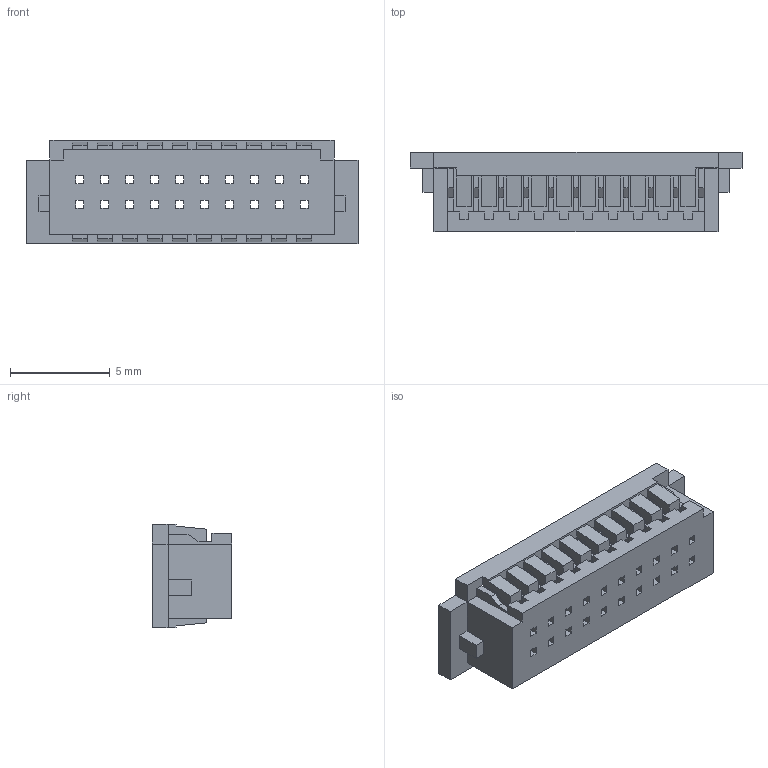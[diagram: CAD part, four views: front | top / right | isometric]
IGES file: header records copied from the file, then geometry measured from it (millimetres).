
Global section: file name: T:/3DWEB公開/NCW/DF13/DF13-DS-C/DF13-20DS-1.25C, ; native system: SolidDesigner 12.00  10-Sep-2003; preprocessor: OneSpace IGES_3D V1.0; author: Unknown; organization: Unknown; date: 20070323.114608; units: millimetre
Bounding box: 16.65 x 4 x 5.2 mm (x, y, z)
Volume: 141.3 mm3; surface area: 734.7 mm2
Topology: 1 solids, 1 shells, 502 faces, 1474 edges, 954 vertices
Faces by surface type: bspline 502
